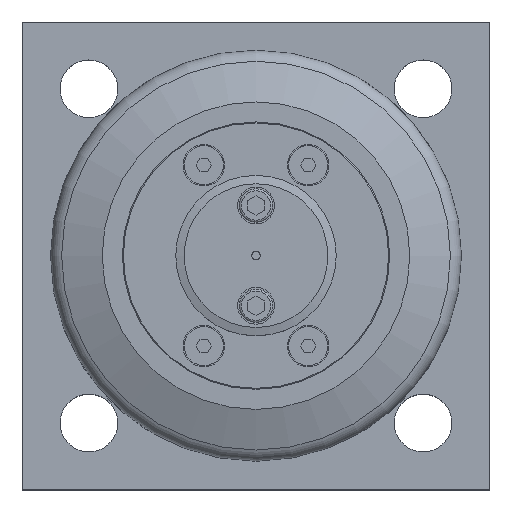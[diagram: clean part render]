
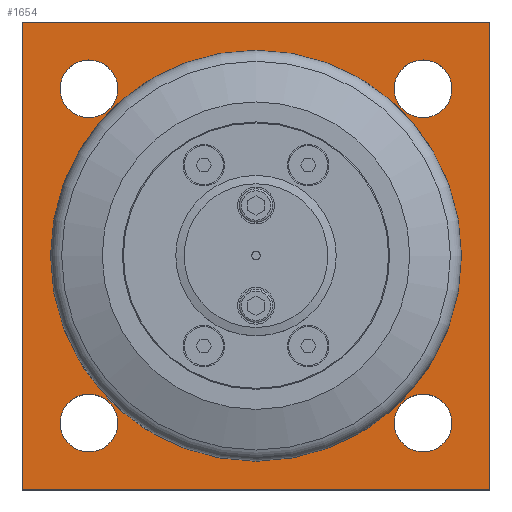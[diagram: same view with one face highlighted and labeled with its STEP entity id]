
A CAD part, top view. The second image highlights one B-rep face of the part: STEP entity #1654.
In plain terms, the highlighted planar face has unit normal (0, 0, 1).
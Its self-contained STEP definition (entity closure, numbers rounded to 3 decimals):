
#63=FACE_BOUND('',#362,.T.);
#64=FACE_BOUND('',#363,.T.);
#65=FACE_BOUND('',#364,.T.);
#66=FACE_BOUND('',#365,.T.);
#67=FACE_BOUND('',#366,.T.);
#141=CIRCLE('',#1837,39.5);
#142=CIRCLE('',#1839,8.647);
#143=CIRCLE('',#1840,8.647);
#144=CIRCLE('',#1841,8.647);
#145=CIRCLE('',#1842,8.647);
#146=CIRCLE('',#1843,8.647);
#147=CIRCLE('',#1844,8.647);
#148=CIRCLE('',#1845,8.647);
#149=CIRCLE('',#1846,8.647);
#243=FACE_OUTER_BOUND('',#361,.T.);
#361=EDGE_LOOP('',(#1446,#1447,#1448,#1449));
#362=EDGE_LOOP('',(#1450));
#363=EDGE_LOOP('',(#1451,#1452));
#364=EDGE_LOOP('',(#1453,#1454));
#365=EDGE_LOOP('',(#1455,#1456));
#366=EDGE_LOOP('',(#1457,#1458));
#508=LINE('',#2808,#652);
#509=LINE('',#2810,#653);
#510=LINE('',#2812,#654);
#511=LINE('',#2813,#655);
#652=VECTOR('',#2300,10.);
#653=VECTOR('',#2301,10.);
#654=VECTOR('',#2302,10.);
#655=VECTOR('',#2303,10.);
#804=VERTEX_POINT('',#2802);
#805=VERTEX_POINT('',#2806);
#806=VERTEX_POINT('',#2807);
#807=VERTEX_POINT('',#2809);
#808=VERTEX_POINT('',#2811);
#809=VERTEX_POINT('',#2814);
#810=VERTEX_POINT('',#2815);
#811=VERTEX_POINT('',#2818);
#812=VERTEX_POINT('',#2819);
#813=VERTEX_POINT('',#2822);
#814=VERTEX_POINT('',#2823);
#815=VERTEX_POINT('',#2826);
#816=VERTEX_POINT('',#2827);
#1022=EDGE_CURVE('',#804,#804,#141,.T.);
#1023=EDGE_CURVE('',#805,#806,#508,.T.);
#1024=EDGE_CURVE('',#807,#805,#509,.T.);
#1025=EDGE_CURVE('',#808,#807,#510,.T.);
#1026=EDGE_CURVE('',#806,#808,#511,.T.);
#1027=EDGE_CURVE('',#809,#810,#142,.T.);
#1028=EDGE_CURVE('',#810,#809,#143,.T.);
#1029=EDGE_CURVE('',#811,#812,#144,.T.);
#1030=EDGE_CURVE('',#812,#811,#145,.T.);
#1031=EDGE_CURVE('',#813,#814,#146,.T.);
#1032=EDGE_CURVE('',#814,#813,#147,.T.);
#1033=EDGE_CURVE('',#815,#816,#148,.T.);
#1034=EDGE_CURVE('',#816,#815,#149,.T.);
#1446=ORIENTED_EDGE('',*,*,#1023,.F.);
#1447=ORIENTED_EDGE('',*,*,#1024,.F.);
#1448=ORIENTED_EDGE('',*,*,#1025,.F.);
#1449=ORIENTED_EDGE('',*,*,#1026,.F.);
#1450=ORIENTED_EDGE('',*,*,#1022,.T.);
#1451=ORIENTED_EDGE('',*,*,#1027,.T.);
#1452=ORIENTED_EDGE('',*,*,#1028,.T.);
#1453=ORIENTED_EDGE('',*,*,#1029,.T.);
#1454=ORIENTED_EDGE('',*,*,#1030,.T.);
#1455=ORIENTED_EDGE('',*,*,#1031,.T.);
#1456=ORIENTED_EDGE('',*,*,#1032,.T.);
#1457=ORIENTED_EDGE('',*,*,#1033,.T.);
#1458=ORIENTED_EDGE('',*,*,#1034,.T.);
#1563=PLANE('',#1838);
#1654=ADVANCED_FACE('',(#243,#63,#64,#65,#66,#67),#1563,.T.);
#1837=AXIS2_PLACEMENT_3D('',#2804,#2296,#2297);
#1838=AXIS2_PLACEMENT_3D('',#2805,#2298,#2299);
#1839=AXIS2_PLACEMENT_3D('',#2816,#2304,#2305);
#1840=AXIS2_PLACEMENT_3D('',#2817,#2306,#2307);
#1841=AXIS2_PLACEMENT_3D('',#2820,#2308,#2309);
#1842=AXIS2_PLACEMENT_3D('',#2821,#2310,#2311);
#1843=AXIS2_PLACEMENT_3D('',#2824,#2312,#2313);
#1844=AXIS2_PLACEMENT_3D('',#2825,#2314,#2315);
#1845=AXIS2_PLACEMENT_3D('',#2828,#2316,#2317);
#1846=AXIS2_PLACEMENT_3D('',#2829,#2318,#2319);
#2296=DIRECTION('center_axis',(0.,0.,-1.));
#2297=DIRECTION('ref_axis',(0.,1.,0.));
#2298=DIRECTION('center_axis',(0.,0.,1.));
#2299=DIRECTION('ref_axis',(1.,0.,0.));
#2300=DIRECTION('',(0.,1.,0.));
#2301=DIRECTION('',(-1.,0.,0.));
#2302=DIRECTION('',(0.,-1.,0.));
#2303=DIRECTION('',(1.,0.,0.));
#2304=DIRECTION('center_axis',(0.,0.,-1.));
#2305=DIRECTION('ref_axis',(1.,0.,0.));
#2306=DIRECTION('center_axis',(0.,0.,-1.));
#2307=DIRECTION('ref_axis',(1.,0.,0.));
#2308=DIRECTION('center_axis',(0.,0.,-1.));
#2309=DIRECTION('ref_axis',(1.,0.,0.));
#2310=DIRECTION('center_axis',(0.,0.,-1.));
#2311=DIRECTION('ref_axis',(1.,0.,0.));
#2312=DIRECTION('center_axis',(0.,0.,-1.));
#2313=DIRECTION('ref_axis',(1.,0.,0.));
#2314=DIRECTION('center_axis',(0.,0.,-1.));
#2315=DIRECTION('ref_axis',(1.,0.,0.));
#2316=DIRECTION('center_axis',(0.,0.,-1.));
#2317=DIRECTION('ref_axis',(1.,0.,0.));
#2318=DIRECTION('center_axis',(0.,0.,-1.));
#2319=DIRECTION('ref_axis',(1.,0.,0.));
#2802=CARTESIAN_POINT('',(70.,30.5,20.));
#2804=CARTESIAN_POINT('Origin',(70.,70.,20.));
#2805=CARTESIAN_POINT('Origin',(70.,70.,20.));
#2806=CARTESIAN_POINT('',(0.,0.,20.));
#2807=CARTESIAN_POINT('',(0.,140.,20.));
#2808=CARTESIAN_POINT('',(0.,140.,20.));
#2809=CARTESIAN_POINT('',(140.,0.,20.));
#2810=CARTESIAN_POINT('',(0.,0.,20.));
#2811=CARTESIAN_POINT('',(140.,140.,20.));
#2812=CARTESIAN_POINT('',(140.,0.,20.));
#2813=CARTESIAN_POINT('',(140.,140.,20.));
#2814=CARTESIAN_POINT('',(28.647,120.,20.));
#2815=CARTESIAN_POINT('',(11.353,120.,20.));
#2816=CARTESIAN_POINT('Origin',(20.,120.,20.));
#2817=CARTESIAN_POINT('Origin',(20.,120.,20.));
#2818=CARTESIAN_POINT('',(128.647,120.,20.));
#2819=CARTESIAN_POINT('',(111.353,120.,20.));
#2820=CARTESIAN_POINT('Origin',(120.,120.,20.));
#2821=CARTESIAN_POINT('Origin',(120.,120.,20.));
#2822=CARTESIAN_POINT('',(128.647,20.,20.));
#2823=CARTESIAN_POINT('',(111.353,20.,20.));
#2824=CARTESIAN_POINT('Origin',(120.,20.,20.));
#2825=CARTESIAN_POINT('Origin',(120.,20.,20.));
#2826=CARTESIAN_POINT('',(28.647,20.,20.));
#2827=CARTESIAN_POINT('',(11.353,20.,20.));
#2828=CARTESIAN_POINT('Origin',(20.,20.,20.));
#2829=CARTESIAN_POINT('Origin',(20.,20.,20.));
